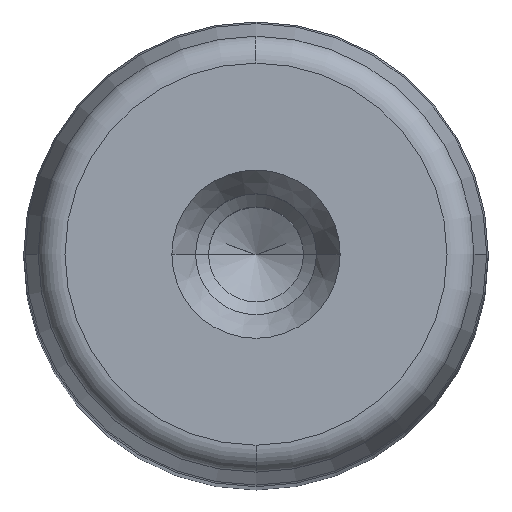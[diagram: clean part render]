
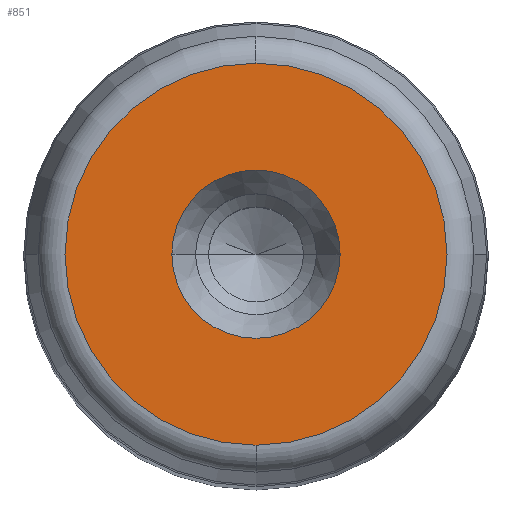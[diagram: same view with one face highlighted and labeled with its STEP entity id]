
A CAD part, top view. The second image highlights one B-rep face of the part: STEP entity #851.
In plain terms, the highlighted planar face has unit normal (0, 0, 1) as drawn and (0, 1, 0) by its records, which use the part's own axes.
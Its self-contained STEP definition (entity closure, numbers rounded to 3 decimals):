
#281=CARTESIAN_POINT('',(9.05,220.0,0.0));
#282=VERTEX_POINT('',#281);
#289=CARTESIAN_POINT('',(-9.05,220.0,0.));
#290=VERTEX_POINT('',#289);
#291=CARTESIAN_POINT('',(0.0,220.0,0.0));
#292=DIRECTION('',(0.0,1.0,0.0));
#293=DIRECTION('',(1.0,0.0,0.0));
#294=AXIS2_PLACEMENT_3D('',#291,#292,#293);
#295=CIRCLE('',#294,9.05);
#296=EDGE_CURVE('',#282,#290,#295,.T.);
#313=CARTESIAN_POINT('',(0.0,220.0,20.554));
#314=VERTEX_POINT('',#313);
#324=CARTESIAN_POINT('',(0.,220.0,-20.554));
#325=VERTEX_POINT('',#324);
#326=CARTESIAN_POINT('',(0.0,220.0,0.0));
#327=DIRECTION('',(0.0,1.0,0.0));
#328=DIRECTION('',(1.0,0.0,0.0));
#329=AXIS2_PLACEMENT_3D('',#326,#327,#328);
#330=CIRCLE('',#329,20.554);
#331=EDGE_CURVE('',#325,#314,#330,.T.);
#812=CARTESIAN_POINT('',(20.554,220.0,0.0));
#813=VERTEX_POINT('',#812);
#814=CARTESIAN_POINT('',(0.0,220.0,0.0));
#815=DIRECTION('',(0.0,1.0,0.0));
#816=DIRECTION('',(1.0,0.0,0.0));
#817=AXIS2_PLACEMENT_3D('',#814,#815,#816);
#818=CIRCLE('',#817,20.554);
#819=EDGE_CURVE('',#813,#325,#818,.T.);
#821=CARTESIAN_POINT('',(0.0,220.0,0.0));
#822=DIRECTION('',(0.0,1.0,0.0));
#823=DIRECTION('',(1.0,0.0,0.0));
#824=AXIS2_PLACEMENT_3D('',#821,#822,#823);
#825=CIRCLE('',#824,20.554);
#826=EDGE_CURVE('',#314,#813,#825,.T.);
#831=CARTESIAN_POINT('',(-22.61,220.0,-22.61));
#832=DIRECTION('',(0.0,1.0,0.0));
#833=DIRECTION('',(0.0,0.0,1.0));
#834=AXIS2_PLACEMENT_3D('',#831,#832,#833);
#835=PLANE('',#834);
#836=ORIENTED_EDGE('',*,*,#819,.T.);
#837=ORIENTED_EDGE('',*,*,#331,.T.);
#838=ORIENTED_EDGE('',*,*,#826,.T.);
#839=EDGE_LOOP('',(#836,#837,#838));
#840=FACE_OUTER_BOUND('',#839,.T.);
#841=ORIENTED_EDGE('',*,*,#296,.F.);
#842=CARTESIAN_POINT('',(0.0,220.0,0.0));
#843=DIRECTION('',(0.0,1.0,0.0));
#844=DIRECTION('',(1.0,0.0,0.0));
#845=AXIS2_PLACEMENT_3D('',#842,#843,#844);
#846=CIRCLE('',#845,9.05);
#847=EDGE_CURVE('',#290,#282,#846,.T.);
#848=ORIENTED_EDGE('',*,*,#847,.F.);
#849=EDGE_LOOP('',(#841,#848));
#850=FACE_BOUND('',#849,.T.);
#851=ADVANCED_FACE('',(#840,#850),#835,.T.);
